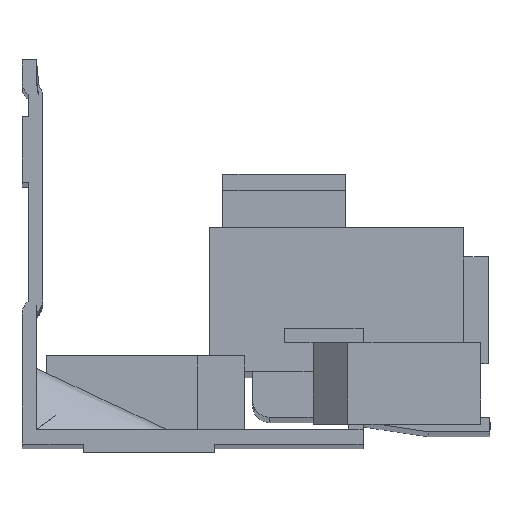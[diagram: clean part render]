
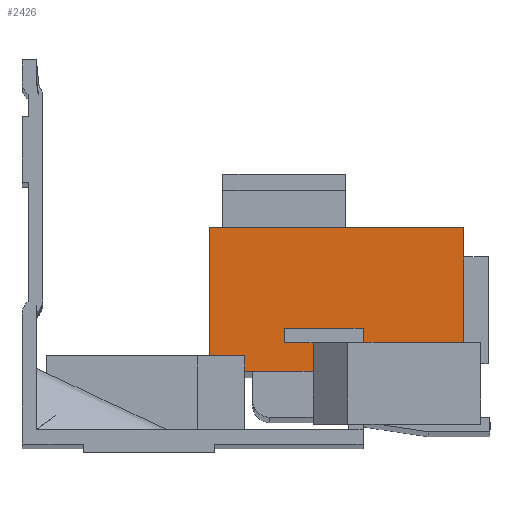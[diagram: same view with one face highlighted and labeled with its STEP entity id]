
A CAD part, front view. The second image highlights one B-rep face of the part: STEP entity #2426.
In plain terms, the highlighted planar face has unit normal (0, -1, 0).
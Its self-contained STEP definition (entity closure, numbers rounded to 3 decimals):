
#31 = VERTEX_POINT ( 'NONE', #304 ) ;
#32 = VERTEX_POINT ( 'NONE', #305 ) ;
#33 = VERTEX_POINT ( 'NONE', #306 ) ;
#100 = VERTEX_POINT ( 'NONE', #373 ) ;
#132 = VERTEX_POINT ( 'NONE', #405 ) ;
#134 = VERTEX_POINT ( 'NONE', #407 ) ;
#167 = VERTEX_POINT ( 'NONE', #440 ) ;
#172 = VERTEX_POINT ( 'NONE', #445 ) ;
#187 = VERTEX_POINT ( 'NONE', #460 ) ;
#189 = VERTEX_POINT ( 'NONE', #462 ) ;
#196 = VERTEX_POINT ( 'NONE', #469 ) ;
#255 = VERTEX_POINT ( 'NONE', #528 ) ;
#304 = CARTESIAN_POINT ( 'NONE',  ( 22.9, -20., -25.181 ) ) ;
#305 = CARTESIAN_POINT ( 'NONE',  ( 27.15, -20., -25.181 ) ) ;
#306 = CARTESIAN_POINT ( 'NONE',  ( 53.9, -20., -23.558 ) ) ;
#373 = CARTESIAN_POINT ( 'NONE',  ( 35.5, -20., -27.058 ) ) ;
#405 = CARTESIAN_POINT ( 'NONE',  ( 22.9, -20., -9.558 ) ) ;
#407 = CARTESIAN_POINT ( 'NONE',  ( 32., -20., -21.858 ) ) ;
#440 = CARTESIAN_POINT ( 'NONE',  ( 53.9, -20., -9.558 ) ) ;
#445 = CARTESIAN_POINT ( 'NONE',  ( 41.6, -20., -23.558 ) ) ;
#460 = CARTESIAN_POINT ( 'NONE',  ( 32., -20., -23.608 ) ) ;
#462 = CARTESIAN_POINT ( 'NONE',  ( 35.5, -20., -23.608 ) ) ;
#469 = CARTESIAN_POINT ( 'NONE',  ( 41.6, -20., -21.858 ) ) ;
#528 = CARTESIAN_POINT ( 'NONE',  ( 27.15, -20., -27.058 ) ) ;
#742 = CARTESIAN_POINT ( 'NONE',  ( 53.9, -20., -9.558 ) ) ;
#743 = DIRECTION ( 'NONE',  ( 1., 0., 0. ) ) ;
#764 = CARTESIAN_POINT ( 'NONE',  ( 53.9, -20., -29.558 ) ) ;
#765 = DIRECTION ( 'NONE',  ( 0., 0., -1. ) ) ;
#778 = CARTESIAN_POINT ( 'NONE',  ( 49.9, -20., -23.558 ) ) ;
#779 = DIRECTION ( 'NONE',  ( 1., 0., 0. ) ) ;
#822 = CARTESIAN_POINT ( 'NONE',  ( 41.6, -20., -35.931 ) ) ;
#823 = DIRECTION ( 'NONE',  ( 0., 0., -1. ) ) ;
#836 = CARTESIAN_POINT ( 'NONE',  ( 49.9, -20., -27.058 ) ) ;
#837 = DIRECTION ( 'NONE',  ( -1., 0., 0. ) ) ;
#838 = CARTESIAN_POINT ( 'NONE',  ( 35.5, -20., -27.058 ) ) ;
#839 = DIRECTION ( 'NONE',  ( 0., 0., -1. ) ) ;
#840 = CARTESIAN_POINT ( 'NONE',  ( 32., -20., -23.608 ) ) ;
#841 = DIRECTION ( 'NONE',  ( -1., 0., 0. ) ) ;
#842 = CARTESIAN_POINT ( 'NONE',  ( 32., -20., -21.831 ) ) ;
#843 = DIRECTION ( 'NONE',  ( 0., 0., 1. ) ) ;
#844 = CARTESIAN_POINT ( 'NONE',  ( 41.6, -20., -21.858 ) ) ;
#845 = DIRECTION ( 'NONE',  ( 1., 0., 0. ) ) ;
#846 = CARTESIAN_POINT ( 'NONE',  ( 22.9, -20., -27.058 ) ) ;
#847 = DIRECTION ( 'NONE',  ( 0., 0., 1. ) ) ;
#848 = CARTESIAN_POINT ( 'NONE',  ( 49.9, -20., -25.181 ) ) ;
#849 = DIRECTION ( 'NONE',  ( -1., 0., 0. ) ) ;
#850 = CARTESIAN_POINT ( 'NONE',  ( 27.15, -20., -27.058 ) ) ;
#851 = DIRECTION ( 'NONE',  ( 0., 0., 1. ) ) ;
#1778 = ORIENTED_EDGE ( 'NONE', *, *, #1901, .F. ) ;
#1779 = ORIENTED_EDGE ( 'NONE', *, *, #1900, .F. ) ;
#1780 = ORIENTED_EDGE ( 'NONE', *, *, #1899, .F. ) ;
#1781 = ORIENTED_EDGE ( 'NONE', *, *, #1847, .F. ) ;
#1782 = ORIENTED_EDGE ( 'NONE', *, *, #1858, .F. ) ;
#1783 = ORIENTED_EDGE ( 'NONE', *, *, #1865, .T. ) ;
#1784 = ORIENTED_EDGE ( 'NONE', *, *, #1887, .T. ) ;
#1785 = ORIENTED_EDGE ( 'NONE', *, *, #1898, .T. ) ;
#1786 = ORIENTED_EDGE ( 'NONE', *, *, #1897, .T. ) ;
#1787 = ORIENTED_EDGE ( 'NONE', *, *, #1896, .T. ) ;
#1788 = ORIENTED_EDGE ( 'NONE', *, *, #1895, .F. ) ;
#1847 = EDGE_CURVE ( 'NONE', #132, #167, #2799, .T. ) ;
#1858 = EDGE_CURVE ( 'NONE', #167, #33, #2821, .T. ) ;
#1865 = EDGE_CURVE ( 'NONE', #172, #33, #2835, .T. ) ;
#1887 = EDGE_CURVE ( 'NONE', #196, #172, #2879, .T. ) ;
#1894 = EDGE_CURVE ( 'NONE', #100, #255, #2893, .T. ) ;
#1895 = EDGE_CURVE ( 'NONE', #189, #100, #2895, .T. ) ;
#1896 = EDGE_CURVE ( 'NONE', #189, #187, #2897, .T. ) ;
#1897 = EDGE_CURVE ( 'NONE', #187, #134, #2899, .T. ) ;
#1898 = EDGE_CURVE ( 'NONE', #134, #196, #2901, .T. ) ;
#1899 = EDGE_CURVE ( 'NONE', #31, #132, #2903, .T. ) ;
#1900 = EDGE_CURVE ( 'NONE', #32, #31, #2905, .T. ) ;
#1901 = EDGE_CURVE ( 'NONE', #255, #32, #2907, .T. ) ;
#2368 = AXIS2_PLACEMENT_3D ( 'NONE', #4532, #4533, #4534 ) ;
#2426 = ADVANCED_FACE ( 'NONE', ( #3497 ), #4531, .F. ) ;
#2618 = ORIENTED_EDGE ( 'NONE', *, *, #1894, .F. ) ;
#2799 = LINE ( 'NONE', #742, #2800 ) ;
#2800 = VECTOR ( 'NONE', #743, 1000. ) ;
#2821 = LINE ( 'NONE', #764, #2822 ) ;
#2822 = VECTOR ( 'NONE', #765, 1000. ) ;
#2835 = LINE ( 'NONE', #778, #2836 ) ;
#2836 = VECTOR ( 'NONE', #779, 1000. ) ;
#2879 = LINE ( 'NONE', #822, #2880 ) ;
#2880 = VECTOR ( 'NONE', #823, 1000. ) ;
#2893 = LINE ( 'NONE', #836, #2894 ) ;
#2894 = VECTOR ( 'NONE', #837, 1000. ) ;
#2895 = LINE ( 'NONE', #838, #2896 ) ;
#2896 = VECTOR ( 'NONE', #839, 1000. ) ;
#2897 = LINE ( 'NONE', #840, #2898 ) ;
#2898 = VECTOR ( 'NONE', #841, 1000. ) ;
#2899 = LINE ( 'NONE', #842, #2900 ) ;
#2900 = VECTOR ( 'NONE', #843, 1000. ) ;
#2901 = LINE ( 'NONE', #844, #2902 ) ;
#2902 = VECTOR ( 'NONE', #845, 1000. ) ;
#2903 = LINE ( 'NONE', #846, #2904 ) ;
#2904 = VECTOR ( 'NONE', #847, 1000. ) ;
#2905 = LINE ( 'NONE', #848, #2906 ) ;
#2906 = VECTOR ( 'NONE', #849, 1000. ) ;
#2907 = LINE ( 'NONE', #850, #2908 ) ;
#2908 = VECTOR ( 'NONE', #851, 1000. ) ;
#3497 = FACE_OUTER_BOUND ( 'NONE', #4894, .T. ) ;
#4531 = PLANE ( 'NONE',  #2368 ) ;
#4532 = CARTESIAN_POINT ( 'NONE',  ( 49.9, -20., -27.058 ) ) ;
#4533 = DIRECTION ( 'NONE',  ( 0., 1., 0. ) ) ;
#4534 = DIRECTION ( 'NONE',  ( 1., 0., 0. ) ) ;
#4894 = EDGE_LOOP ( 'NONE', ( #2618, #1788, #1787, #1786, #1785, #1784, #1783, #1782, #1781, #1780, #1779, #1778 ) ) ;
